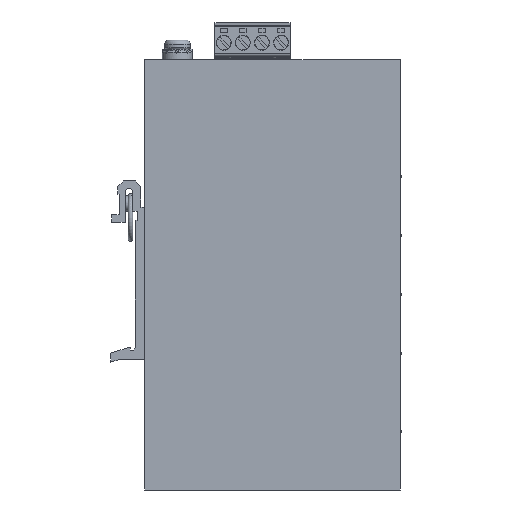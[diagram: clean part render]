
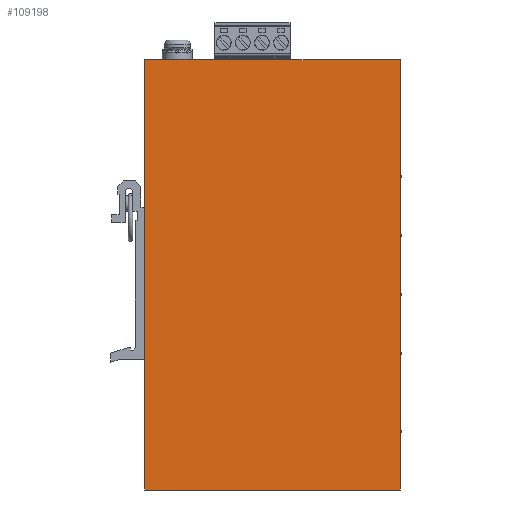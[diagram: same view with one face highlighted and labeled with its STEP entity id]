
A CAD part, left-side view. The second image highlights one B-rep face of the part: STEP entity #109198.
In plain terms, the highlighted planar face has unit normal (-1, 0, 0).
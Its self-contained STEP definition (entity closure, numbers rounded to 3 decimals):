
#6228=CARTESIAN_POINT('',(-0.,68.,114.5));
#6229=VERTEX_POINT('',#6228);
#6238=CARTESIAN_POINT('',(0.,-0.,114.5));
#6239=VERTEX_POINT('',#6238);
#6240=CARTESIAN_POINT('',(0.,-0.,114.5));
#6241=DIRECTION('',(-0.,1.,0.));
#6242=VECTOR('',#6241,68.);
#6243=LINE('',#6240,#6242);
#6244=EDGE_CURVE('',#6239,#6229,#6243,.T.);
#109168=CARTESIAN_POINT('',(-0.,68.,114.75));
#109169=DIRECTION('',(1.,0.,-0.));
#109170=DIRECTION('',(0.,-1.,-0.));
#109171=AXIS2_PLACEMENT_3D('',#109168,#109169,#109170);
#109172=PLANE('',#109171);
#109173=CARTESIAN_POINT('',(-0.,68.,0.));
#109174=VERTEX_POINT('',#109173);
#109175=CARTESIAN_POINT('',(-0.,68.,0.));
#109176=DIRECTION('',(0.,0.,1.));
#109177=VECTOR('',#109176,114.5);
#109178=LINE('',#109175,#109177);
#109179=EDGE_CURVE('',#109174,#6229,#109178,.T.);
#109180=ORIENTED_EDGE('',*,*,#109179,.F.);
#109181=CARTESIAN_POINT('',(0.,0.,0.));
#109182=VERTEX_POINT('',#109181);
#109183=CARTESIAN_POINT('',(0.,0.,-0.));
#109184=DIRECTION('',(-0.,1.,0.));
#109185=VECTOR('',#109184,68.);
#109186=LINE('',#109183,#109185);
#109187=EDGE_CURVE('',#109182,#109174,#109186,.T.);
#109188=ORIENTED_EDGE('',*,*,#109187,.F.);
#109189=CARTESIAN_POINT('',(0.,0.,0.));
#109190=DIRECTION('',(0.,-0.,1.));
#109191=VECTOR('',#109190,114.5);
#109192=LINE('',#109189,#109191);
#109193=EDGE_CURVE('',#109182,#6239,#109192,.T.);
#109194=ORIENTED_EDGE('',*,*,#109193,.T.);
#109195=ORIENTED_EDGE('',*,*,#6244,.T.);
#109196=EDGE_LOOP('',(#109180,#109188,#109194,#109195));
#109197=FACE_BOUND('',#109196,.T.);
#109198=ADVANCED_FACE('',(#109197),#109172,.F.);
